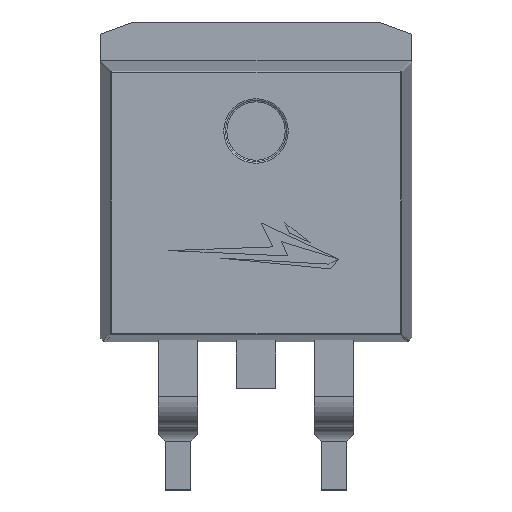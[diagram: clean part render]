
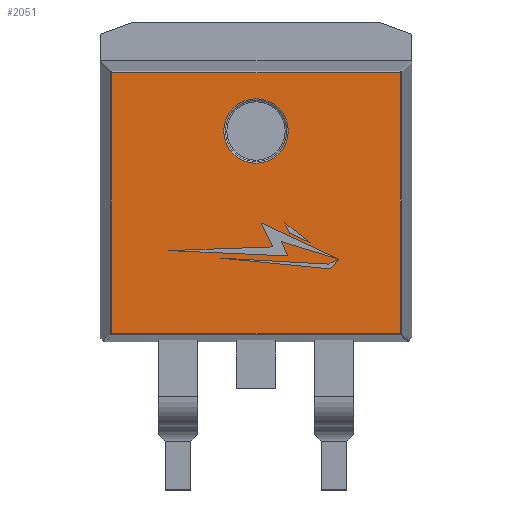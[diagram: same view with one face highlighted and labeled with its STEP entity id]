
A CAD part, top view. The second image highlights one B-rep face of the part: STEP entity #2051.
In plain terms, the highlighted planar face has unit normal (0, 0, 1).
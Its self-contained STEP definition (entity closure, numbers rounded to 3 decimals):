
#71=FACE_BOUND('',#303,.T.);
#85=PLANE('',#2320);
#175=FACE_OUTER_BOUND('',#302,.T.);
#302=EDGE_LOOP('',(#1482,#1483,#1484,#1485));
#303=EDGE_LOOP('',(#1486));
#447=LINE('',#3242,#669);
#448=LINE('',#3244,#670);
#449=LINE('',#3246,#671);
#450=LINE('',#3247,#672);
#669=VECTOR('',#2590,10.);
#670=VECTOR('',#2591,10.);
#671=VECTOR('',#2592,10.);
#672=VECTOR('',#2593,10.);
#868=CIRCLE('',#2313,1.05);
#949=VERTEX_POINT('',#3226);
#954=VERTEX_POINT('',#3240);
#955=VERTEX_POINT('',#3241);
#956=VERTEX_POINT('',#3243);
#957=VERTEX_POINT('',#3245);
#1147=EDGE_CURVE('',#949,#949,#868,.T.);
#1154=EDGE_CURVE('',#954,#955,#447,.T.);
#1155=EDGE_CURVE('',#956,#954,#448,.T.);
#1156=EDGE_CURVE('',#957,#956,#449,.T.);
#1157=EDGE_CURVE('',#955,#957,#450,.T.);
#1482=ORIENTED_EDGE('',*,*,#1154,.F.);
#1483=ORIENTED_EDGE('',*,*,#1155,.F.);
#1484=ORIENTED_EDGE('',*,*,#1156,.F.);
#1485=ORIENTED_EDGE('',*,*,#1157,.F.);
#1486=ORIENTED_EDGE('',*,*,#1147,.F.);
#2051=ADVANCED_FACE('',(#175,#71),#85,.T.);
#2313=AXIS2_PLACEMENT_3D('',#3227,#2573,#2574);
#2320=AXIS2_PLACEMENT_3D('',#3239,#2588,#2589);
#2573=DIRECTION('center_axis',(0.,0.,1.));
#2574=DIRECTION('ref_axis',(-1.,0.,0.));
#2588=DIRECTION('center_axis',(0.,0.,1.));
#2589=DIRECTION('ref_axis',(1.,0.,0.));
#2590=DIRECTION('',(1.,0.,0.));
#2591=DIRECTION('',(0.,1.,0.));
#2592=DIRECTION('',(-1.,0.,0.));
#2593=DIRECTION('',(0.,-1.,0.));
#3226=CARTESIAN_POINT('',(1.05,2.287,4.82));
#3227=CARTESIAN_POINT('Origin',(0.,2.287,4.82));
#3239=CARTESIAN_POINT('Origin',(0.,0.,4.82));
#3240=CARTESIAN_POINT('',(-4.692,4.185,4.82));
#3241=CARTESIAN_POINT('',(4.692,4.185,4.82));
#3242=CARTESIAN_POINT('',(1.27,4.185,4.82));
#3243=CARTESIAN_POINT('',(-4.692,-4.302,4.82));
#3244=CARTESIAN_POINT('',(-4.692,1.143,4.82));
#3245=CARTESIAN_POINT('',(4.692,-4.302,4.82));
#3246=CARTESIAN_POINT('',(-1.27,-4.302,4.82));
#3247=CARTESIAN_POINT('',(4.692,-1.143,4.82));
